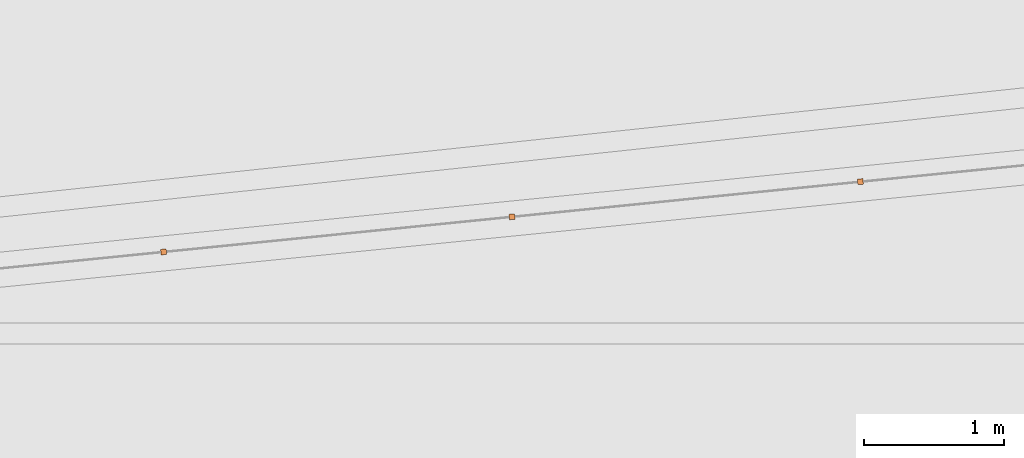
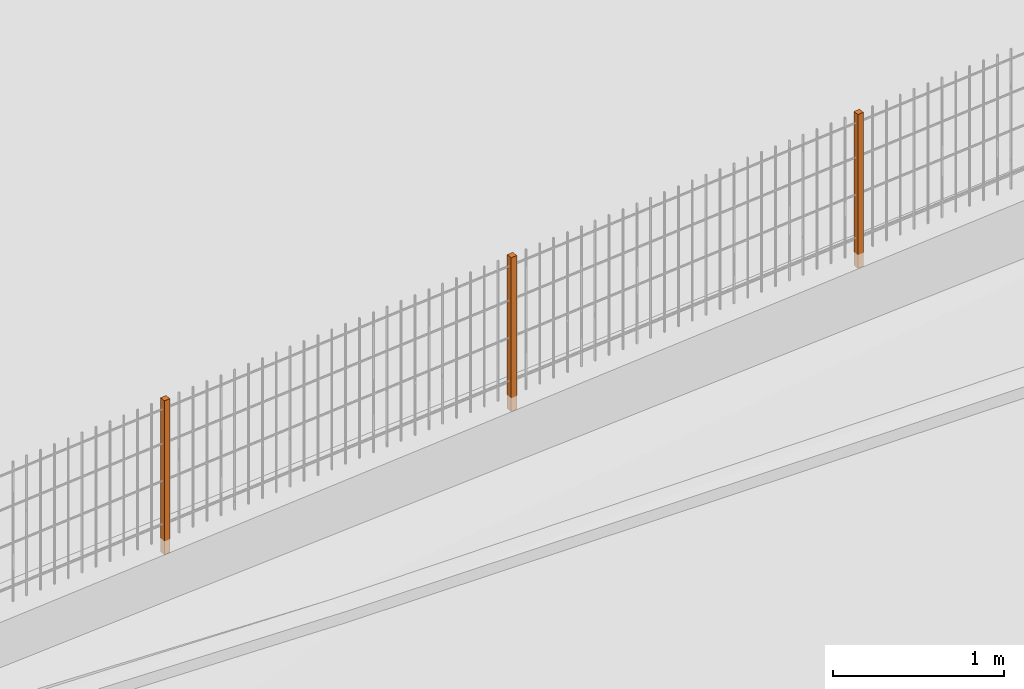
# One storey, part 50 of 1809: 3 proxies, 1 element without a shape of its own.
"""IFC2X3 building model written with IfcOpenShell, lengths in millimetres."""

from ifc_helpers import new_model, entity, si_unit, converted_unit, derived_unit, money_unit, direction, frame, origin_with_axes, place, context, subcontext, project, spatial, faceted_brep, source, transform, mapped, material, type_object, element, aggregate, save


model = new_model("IFC2X3")

# Units and contexts
model_context = context("Model", 3, precision=0.01, world=origin_with_axes(), true_north=direction((0.0, 1.0)))
body_context = subcontext(model_context, "Body", "Model", "MODEL_VIEW")
ifc_project = project(units=[si_unit("LENGTHUNIT", "METRE", prefix="MILLI"), si_unit("AREAUNIT", "SQUARE_METRE"), si_unit("VOLUMEUNIT", "CUBIC_METRE"), converted_unit("PLANEANGLEUNIT", "DEGREE", entity("IfcPlaneAngleMeasure", 0.0174532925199), si_unit("PLANEANGLEUNIT", "RADIAN"), dimensions=[0, 0, 0, 0, 0, 0, 0]), si_unit("SOLIDANGLEUNIT", "STERADIAN"), money_unit("EUR"), converted_unit("TIMEUNIT", "Year", entity("IfcTimeMeasure", 31556926.0), si_unit("TIMEUNIT", "SECOND"), dimensions=[0, 0, 1, 0, 0, 0, 0]), si_unit("MASSUNIT", "GRAM", prefix="KILO"), si_unit("THERMODYNAMICTEMPERATUREUNIT", "DEGREE_CELSIUS"), si_unit("LUMINOUSINTENSITYUNIT", "LUMEN"), si_unit("ENERGYUNIT", "JOULE", prefix="MEGA"), derived_unit("THERMALCONDUCTANCEUNIT", [(si_unit("POWERUNIT", "WATT"), 1), (si_unit("LENGTHUNIT", "METRE"), -1), (si_unit("THERMODYNAMICTEMPERATUREUNIT", "KELVIN"), -1)]), derived_unit("SPECIFICHEATCAPACITYUNIT", [(si_unit("ENERGYUNIT", "JOULE"), 1), (si_unit("MASSUNIT", "GRAM", prefix="KILO"), -1), (si_unit("THERMODYNAMICTEMPERATUREUNIT", "KELVIN"), -1)]), derived_unit("MASSDENSITYUNIT", [(si_unit("MASSUNIT", "GRAM", prefix="KILO"), 1), (si_unit("VOLUMEUNIT", "CUBIC_METRE"), -1)])], contexts=[model_context])

# Site, building, storey
site_placement = place(None, origin_with_axes())
site = spatial("IfcSite", under=ifc_project, at=site_placement, Name="Politse- ja Piirivalveameti ning Päästeameti ühishoone", CompositionType="ELEMENT")
building_placement = place(site_placement, origin_with_axes())
building = spatial("IfcBuilding", under=site, at=building_placement, Name="Politse- ja Piirivalveameti ning Päästeameti ühishoone", CompositionType="ELEMENT")
storey_placement = place(building_placement, origin_with_axes())
storey = spatial("IfcBuildingStorey", under=building, at=storey_placement, Name="Esimene korrus", CompositionType="ELEMENT", Elevation=0.0)

# Proxies
building_element_proxy_type_1 = type_object("IfcBuildingElementProxyType", Name="Railing Type", PredefinedType="NOTDEFINED")
proxy_1_placement = place(storey_placement, frame((88449.2204314, 58319.144353, 0.0), z_axis=(0.0, 0.0, 1.0), x_axis=(1.0, 0.0, 0.0)))
proxy_1 = element("IfcBuildingElementProxy", 1, at=proxy_1_placement, inside=storey, type_object=building_element_proxy_type_1, Name="PIIRDEAED")
ifc_material = material(Name="Teras - Konstruktsioon")
building_element_proxy_type_2 = type_object("IfcBuildingElementProxyType", Name="IfcBuildingElementProxy", PredefinedType="NOTDEFINED")
shared_shape = source(origin_with_axes(), body_context, "Body", "Brep", [
    faceted_brep([(20.0, 20.0, 0.0), (-20.0, 20.0, 0.0), (-20.0, 20.0, 1100.0), (20.0, 20.0, 1100.0), (20.0, -20.0, 0.0), (-20.0, -20.0, 0.0), (-20.0, -20.0, 1100.0), (20.0, -20.0, 1100.0)], [[[0, 1, 2, 3]], [[0, 4, 5, 1]], [[1, 5, 6, 2]], [[3, 2, 6, 7]], [[4, 0, 3, 7]], [[5, 4, 7, 6]]]),
])
proxy_2_placement = place(proxy_1_placement, frame((-12046.4033925, 24443.2697491, 0.0), z_axis=(0.0, 0.0, 1.0), x_axis=(1.0, 0.0, 0.0)))
proxy_2 = element("IfcBuildingElementProxy", 2, at=proxy_2_placement, type_object=building_element_proxy_type_2, material=ifc_material, Name="SISEPOST - 001", context=body_context, shape_type="MappedRepresentation", body=[
    mapped(shared_shape, transform((0.0, 0.0, 0.0), x_axis=(-0.100251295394, 0.994962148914, 0.0), y_axis=(-0.994962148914, -0.100251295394, 0.0), z_axis=(0.0, 0.0, 1.0))),
])
proxy_3_placement = place(proxy_1_placement, frame((-14533.8087648, 24192.6415106, 0.0), z_axis=(0.0, 0.0, 1.0), x_axis=(1.0, 0.0, 0.0)))
proxy_3 = element("IfcBuildingElementProxy", 3, at=proxy_3_placement, type_object=building_element_proxy_type_2, material=ifc_material, Name="SISEPOST - 001", context=body_context, shape_type="MappedRepresentation", body=[
    mapped(shared_shape, transform((0.0, 0.0, 0.0), x_axis=(-0.100251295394, 0.994962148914, 0.0), y_axis=(-0.994962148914, -0.100251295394, 0.0), z_axis=(0.0, 0.0, 1.0))),
])
proxy_4_placement = place(proxy_1_placement, frame((-17021.2141371, 23942.0132721, 0.0), z_axis=(0.0, 0.0, 1.0), x_axis=(1.0, 0.0, 0.0)))
proxy_4 = element("IfcBuildingElementProxy", 4, at=proxy_4_placement, type_object=building_element_proxy_type_2, material=ifc_material, Name="SISEPOST - 001", context=body_context, shape_type="MappedRepresentation", body=[
    mapped(shared_shape, transform((0.0, 0.0, 0.0), x_axis=(-0.100251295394, 0.994962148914, 0.0), y_axis=(-0.994962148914, -0.100251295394, 0.0), z_axis=(0.0, 0.0, 1.0))),
])
aggregate(proxy_1, [proxy_2, proxy_3, proxy_4])

save(model, "model.ifc")
